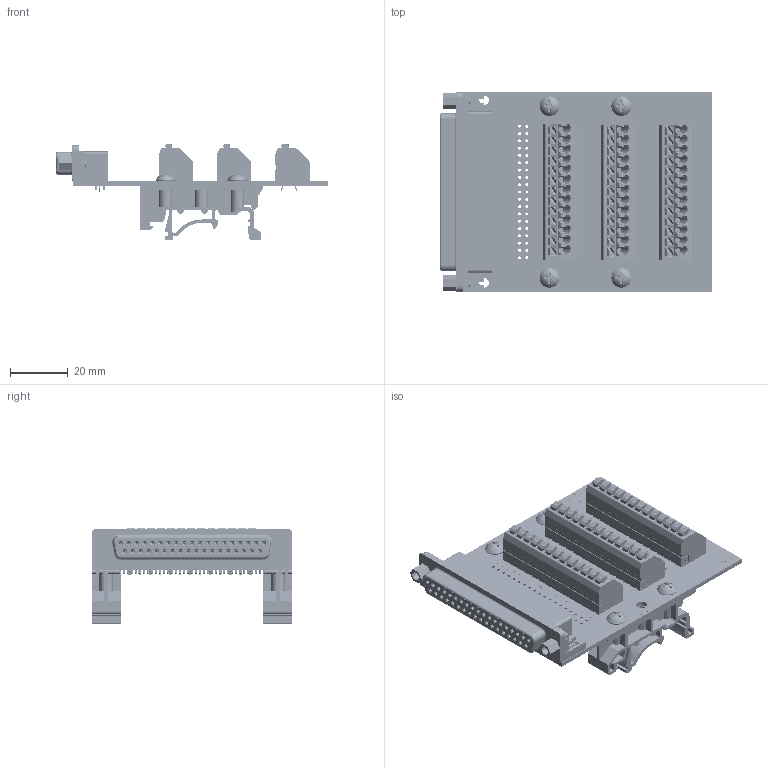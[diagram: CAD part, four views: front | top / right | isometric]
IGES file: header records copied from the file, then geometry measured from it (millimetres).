
Start section: SolidWorks IGES file using analytic representation for surfaces
Global section: file name: C:\Users\Jonny\Documents\Winford Engineering Jobs\BRKG37\BRKG37F\brkg37f-r-din_rev_a.igs; native system: SolidWorks 2017; preprocessor: SolidWorks 2017; author: Jonny; date: 171002.215232; units: inch
Bounding box: 94.88 x 69.85 x 33.67 mm (x, y, z)
Volume: 38995.2 mm3; surface area: 49191.1 mm2
Topology: 51 solids, 51 shells, 8884 faces, 24323 edges, 15685 vertices
Faces by surface type: plane 5176, revolution 2471, bspline 1237
